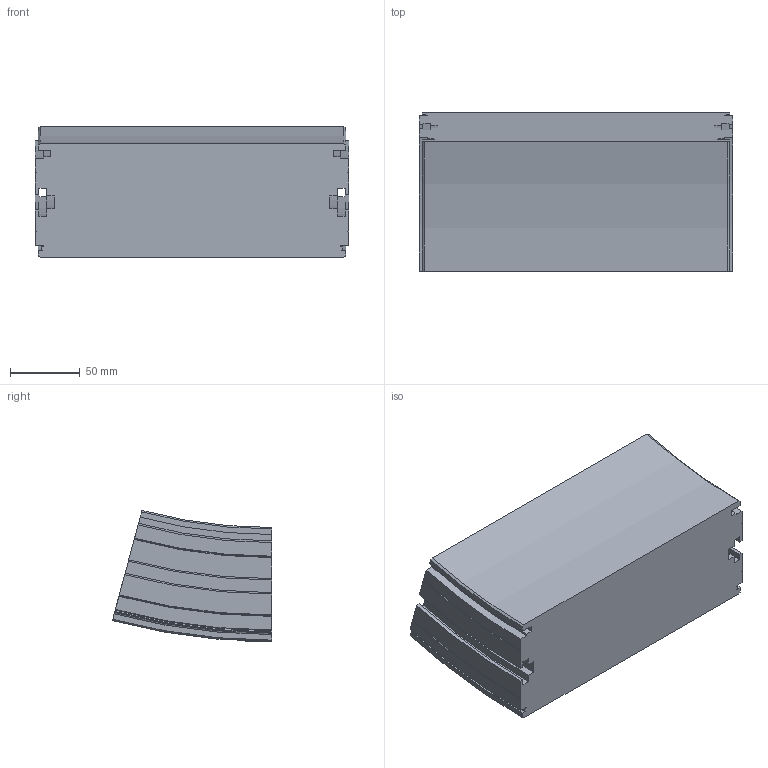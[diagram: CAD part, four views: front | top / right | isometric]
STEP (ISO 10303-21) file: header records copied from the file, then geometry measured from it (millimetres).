
FILE_DESCRIPTION(/* description */ ('VERTIKALKURVA S220 R400'),/* implementation_level */ '2;1');
FILE_NAME(/* name */ '\\carryline.intra\privat\users\mathias\Desktop\Tillfälliga filer\220-5645+220-2000-NER-01.stp',/* time_stamp */ '2018-11-29T13:24:33+01:00',/* author */ ('MD'),/* organization */ ('CARRYLINE'),/* preprocessor_version */ 'ST-DEVELOPER v17',/* originating_system */ 'Autodesk Inventor 2018',/* authorisation */ '');
FILE_SCHEMA (('AUTOMOTIVE_DESIGN { 1 0 10303 214 3 1 1 }'));
Length unit declared in the file: millimetre
Products named in the file (1): 220-5645+220-2000-NER-01
Bounding box: 224 x 113.75 x 93.7 mm (x, y, z)
Volume: 1847845.6 mm3; surface area: 113920.9 mm2
Topology: 1 solids, 1 shells, 113 faces, 318 edges, 212 vertices
Faces by surface type: plane 48, cylinder 31, bspline 14, cone 14, torus 6
Entity records: 8355 total; most frequent: CARTESIAN_POINT 5387, ORIENTED_EDGE 636, DIRECTION 576, EDGE_CURVE 318, VERTEX_POINT 212, AXIS2_PLACEMENT_3D 199, LINE 178, VECTOR 178
